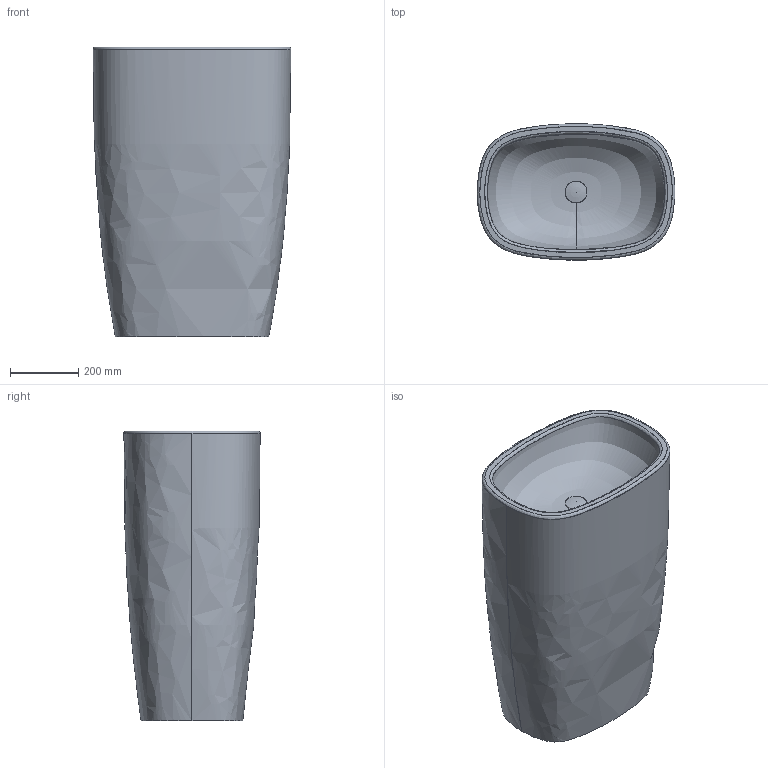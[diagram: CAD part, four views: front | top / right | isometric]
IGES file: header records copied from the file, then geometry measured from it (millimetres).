
Global section: file name: C:\Users\FULVIO\Desktop\Archivio Nic\Milk\Modello 3D\Freestanding\Freestanding.igs; native system: Rhinoceros ( Mar  6 2018 ); preprocessor: Trout Lake IGES 012 Mar  6 2018; date: 191219.085629; units: millimetre
Bounding box: 579.62 x 399.49 x 850.16 mm (x, y, z)
Surface area: 1615880.2 mm2 (no closed solid volume)
Topology: 0 solids, 0 shells, 7 faces, 557 edges, 551 vertices
Faces by surface type: bspline 7
